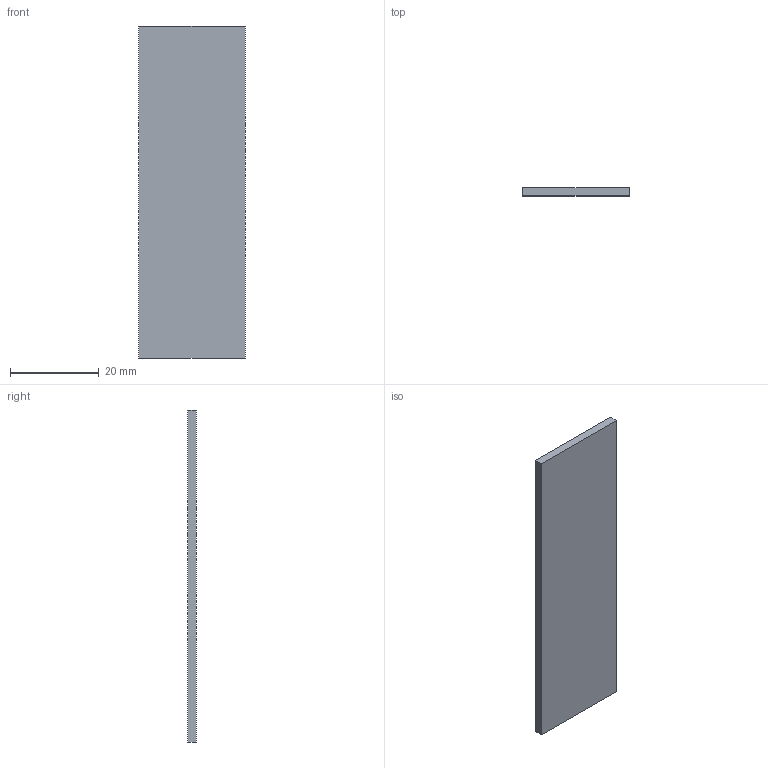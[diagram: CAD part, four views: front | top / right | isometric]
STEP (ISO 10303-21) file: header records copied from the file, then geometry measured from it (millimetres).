
FILE_DESCRIPTION (( 'STEP AP214' ), '1' );
FILE_NAME ('LSNY-00-075-X-X-24V-DIFFUSER.STEP', '2022-05-11T09:38:27', ( '' ), ( '' ), 'SwSTEP 2.0', 'SolidWorks 2021', '' );
FILE_SCHEMA (( 'AUTOMOTIVE_DESIGN' ));
Length unit declared in the file: millimetre
Products named in the file (1): LSNY-00-075-X-X-24V-DIFFUSER
Bounding box: 24 x 1.9 x 75 mm (x, y, z)
Volume: 3420 mm3; surface area: 3976.2 mm2
Topology: 1 solids, 1 shells, 6 faces, 12 edges, 8 vertices
Faces by surface type: plane 6
Entity records: 190 total; most frequent: CARTESIAN_POINT 27, DIRECTION 26, ORIENTED_EDGE 24, LINE 12, VECTOR 12, EDGE_CURVE 12, VERTEX_POINT 8, AXIS2_PLACEMENT_3D 7
